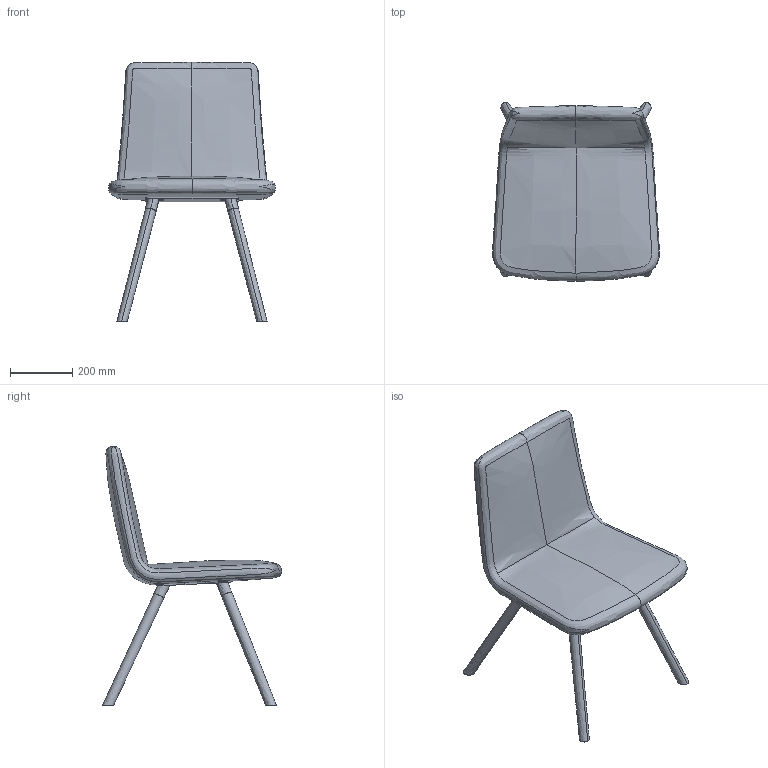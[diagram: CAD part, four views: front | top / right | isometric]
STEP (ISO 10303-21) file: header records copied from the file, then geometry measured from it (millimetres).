
FILE_DESCRIPTION(/* description */ (''),/* implementation_level */ '2;1');
FILE_NAME(/* name */ 'HAB79D~1',/* time_stamp */ '2016-07-26T15:48:33+02:00',/* author */ (''),/* organization */ (''),/* preprocessor_version */ 'ST-DEVELOPER v15',/* originating_system */ '',/* authorisation */ '');
FILE_SCHEMA (('CONFIG_CONTROL_DESIGN'));
Length unit declared in the file: millimetre
Products named in the file (1): Document
Bounding box: 537.02 x 576.28 x 833.82 mm (x, y, z)
Volume: 286609.4 mm3; surface area: 1211765 mm2
Topology: 1 solids, 12 shells, 57 faces, 155 edges, 111 vertices
Faces by surface type: bspline 51, plane 6
Entity records: 8187 total; most frequent: CARTESIAN_POINT 7290, ORIENTED_EDGE 266, EDGE_CURVE 152, VERTEX_POINT 105, EDGE_LOOP 59, ADVANCED_FACE 57, FACE_OUTER_BOUND 57, B_SPLINE_CURVE_WITH_KNOTS 46
